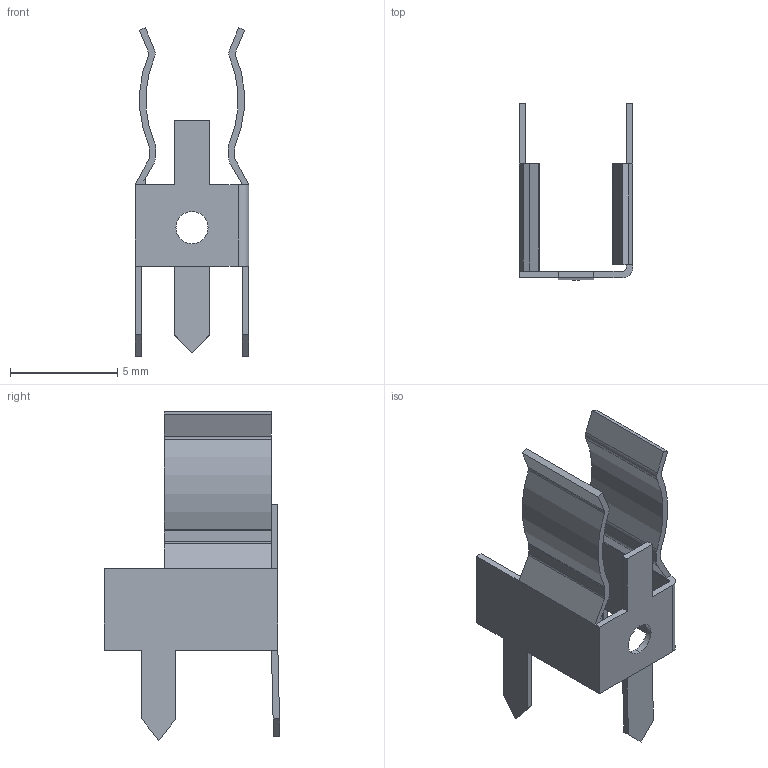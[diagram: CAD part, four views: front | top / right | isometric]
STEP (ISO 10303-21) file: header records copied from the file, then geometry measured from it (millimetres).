
FILE_DESCRIPTION (( 'STEP AP203' ), '1' );
FILE_NAME ('PF-CI.STEP', '2019-09-12T16:45:43', ( '' ), ( '' ), 'SwSTEP 2.0', 'SolidWorks 2012', '' );
FILE_SCHEMA (( 'CONFIG_CONTROL_DESIGN' ));
Length unit declared in the file: millimetre
Products named in the file (1): PF-CI
Bounding box: 5.3 x 8.2 x 15.31 mm (x, y, z)
Volume: 51.9 mm3; surface area: 380.9 mm2
Topology: 1 solids, 1 shells, 74 faces, 207 edges, 135 vertices
Faces by surface type: plane 51, cylinder 23
Entity records: 2444 total; most frequent: CARTESIAN_POINT 423, ORIENTED_EDGE 414, DIRECTION 399, EDGE_CURVE 207, VECTOR 161, LINE 161, VERTEX_POINT 135, AXIS2_PLACEMENT_3D 119
